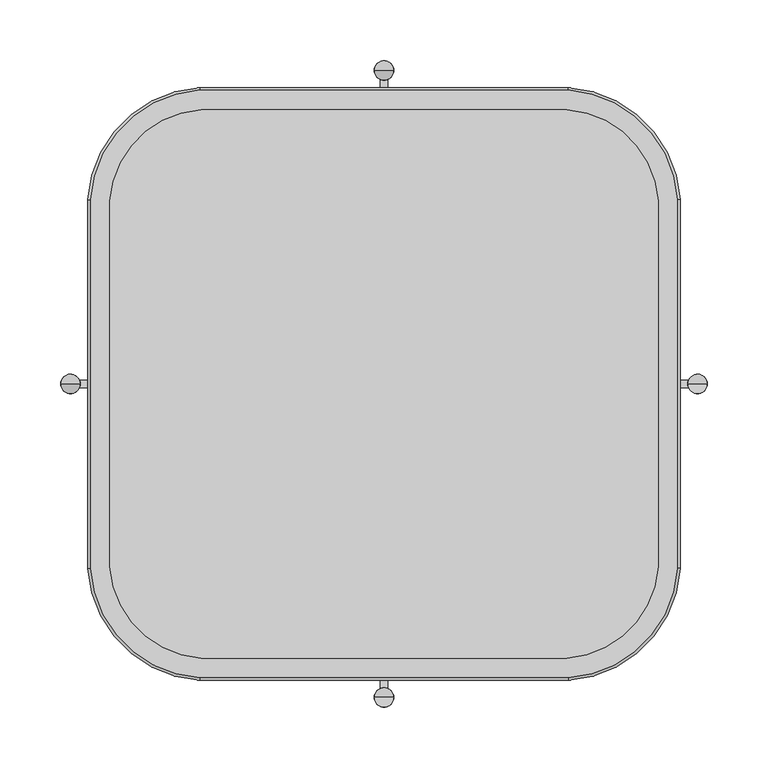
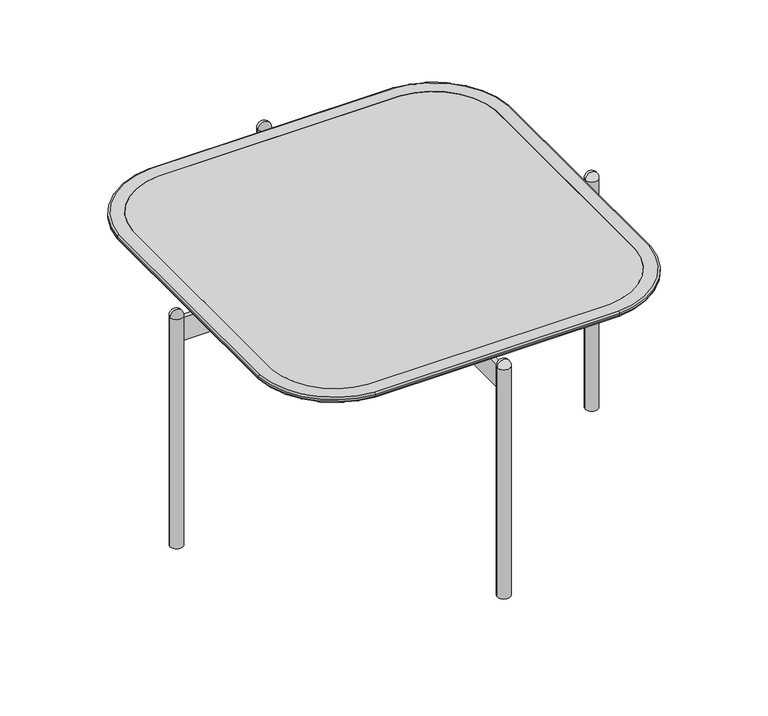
"""IFC4 building model written with IfcOpenShell, lengths in millimetres: furniture geometry, RECTANGULAR TABLE_H=31 : EI131B055050A_F."""

from ifc_helpers import new_model, si_unit, point, frame, frame_2d, origin, origin_with_axes, origin_2d, place, context, project, spatial, polyline, circle_curve, ellipse_curve, trimmed, segment, composite_curve, outline, extrude, source, transform, mapped, element, save
from ifc_brep_helpers import plane_surface, cylinder_surface, revolved_surface, advanced_brep


def furniture_b73a5fb6(model_context):
    return source(origin(), model_context, "Body", "SolidModel", [
        advanced_brep(
        [(-225.6260809, 150.5406369, 297.6939464), (-150.5406368, 225.6260809, 297.6939464), (-150.5406368, 225.6260809, 309.6939464), (-225.6260809, 150.5406369, 309.6939464), (-232.9383111, 151.0330215, 298.0050898), (-151.0330214, 232.9383112, 298.0050898), (-150.9557407, 231.7906426, 297.6939464), (-231.7906425, 150.9557408, 297.6939464), (-242.7967567, 151.6968609, 303.7097555), (-151.6968608, 242.7967567, 303.7097555), (-243.8857957, 151.7701936, 305.4486469), (-151.7701936, 243.8857958, 305.4486469), (-243.8857957, 151.7701936, 307.6939464), (-151.7701936, 243.8857958, 307.6939464), (-241.8903147, 151.6358237, 309.6939464), (-151.6358236, 241.8903147, 309.6939464), (-225.6260809, -150.5406368, 297.6939464), (-225.6260809, -150.5406368, 309.6939464), (-232.9383111, -151.0330214, 298.0050898), (-231.7906425, -150.9557407, 297.6939464), (-242.7967567, -151.6968608, 303.7097555), (-243.8857958, -151.7701936, 305.4486469), (-243.8857958, -151.7701936, 307.6939464), (-241.8903147, -151.6358236, 309.6939464), (-150.5406368, -225.6260809, 297.6939464), (-150.5406368, -225.6260809, 309.6939464), (-151.0330214, -232.9383111, 298.0050898), (-150.9557407, -231.7906425, 297.6939464), (-151.6968608, -242.7967567, 303.7097555), (-151.7701936, -243.8857958, 305.4486469), (-151.7701936, -243.8857958, 307.6939464), (-151.6358236, -241.8903147, 309.6939464), (150.5406369, -225.6260809, 297.6939464), (150.5406369, -225.6260809, 309.6939464), (151.0330214, -232.9383111, 298.0050898), (150.9557407, -231.7906425, 297.6939464), (151.6968608, -242.7967567, 303.7097555), (151.7701936, -243.8857958, 305.4486469), (151.7701936, -243.8857958, 307.6939464), (151.6358236, -241.8903147, 309.6939464), (225.6260809, -150.5406368, 297.6939464), (225.6260809, -150.5406368, 309.6939464), (232.9383112, -151.0330214, 298.0050898), (231.7906426, -150.9557407, 297.6939464), (242.7967567, -151.6968608, 303.7097555), (243.8857958, -151.7701936, 305.4486469), (243.8857958, -151.7701936, 307.6939464), (241.8903147, -151.6358236, 309.6939464), (225.6260809, 150.5406368, 297.6939464), (225.6260809, 150.5406368, 309.6939464), (232.9383112, 151.0330214, 298.0050898), (231.7906426, 150.9557407, 297.6939464), (242.7967567, 151.6968608, 303.7097555), (243.8857958, 151.7701936, 305.4486469), (243.8857958, 151.7701936, 307.6939464), (241.8903147, 151.6358236, 309.6939464), (150.5406368, 225.6260809, 297.6939464), (150.5406368, 225.6260809, 309.6939464), (151.0330214, 232.9383112, 298.0050898), (150.9557407, 231.7906426, 297.6939464), (151.6968608, 242.7967567, 303.7097555), (151.7701936, 243.8857958, 305.4486469), (151.7701936, 243.8857958, 307.6939464), (151.6358236, 241.8903147, 309.6939464)],
        [
            (0, 1, circle_curve(frame((-145.119559, 145.119559, 297.6939464), z_axis=(0.0, 0.0, -1.0), x_axis=(-0.06718498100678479, 0.997740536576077, 0.0)), 80.6888354)),
            (1, 2),
            (2, 3, circle_curve(frame((-145.119559, 145.119559, 309.6939464), z_axis=(0.0, 0.0, 1.0), x_axis=(-0.06718498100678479, 0.997740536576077, 0.0)), 80.6888354)),
            (3, 0),
            (4, 5, circle_curve(frame((-145.119559, 145.119559, 298.0050898), z_axis=(0.0, 0.0, -1.0), x_axis=(-0.06718498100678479, 0.997740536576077, 0.0)), 88.0176248)),
            (5, 6, circle_curve(frame((-150.9557407, 231.7906426, 299.9757328), z_axis=(-0.997740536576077, -0.06718498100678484, 0.0), x_axis=(0.06718498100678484, -0.997740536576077, 0.0)), 2.2817865)),
            (6, 7, circle_curve(frame((-145.119559, 145.119559, 297.6939464), z_axis=(0.0, 0.0, 1.0), x_axis=(-0.06718498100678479, 0.997740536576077, 0.0)), 86.8673572)),
            (7, 4, circle_curve(frame((-231.7906425, 150.9557408, 299.9757328), z_axis=(0.06718498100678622, 0.997740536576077, 0.0), x_axis=(0.997740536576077, -0.06718498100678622, 0.0)), 2.2817865)),
            (8, 9, circle_curve(frame((-145.119559, 145.119559, 303.7097555), z_axis=(0.0, 0.0, -1.0), x_axis=(-0.06718498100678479, 0.997740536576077, 0.0)), 97.8983956)),
            (9, 5),
            (4, 8),
            (10, 11, circle_curve(frame((-145.119559, 145.119559, 305.4486469), z_axis=(0.0, 0.0, -1.0), x_axis=(-0.06718498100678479, 0.997740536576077, 0.0)), 98.9899008)),
            (11, 9, circle_curve(frame((-151.6231258, 241.7017432, 305.6106696), z_axis=(-0.997740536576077, -0.06718498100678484, 0.0), x_axis=(0.06718498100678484, -0.997740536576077, 0.0)), 2.1949866)),
            (8, 10, circle_curve(frame((-241.7017431, 151.6231258, 305.6106696), z_axis=(0.067184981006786, 0.9977405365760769, 0.0), x_axis=(0.9977405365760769, -0.067184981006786, 0.0)), 2.1949866)),
            (12, 13, circle_curve(frame((-145.119559, 145.119559, 307.6939464), z_axis=(0.0, 0.0, -1.0), x_axis=(-0.06718498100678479, 0.997740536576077, 0.0)), 98.9899008)),
            (13, 11),
            (10, 12),
            (14, 15, circle_curve(frame((-145.119559, 145.119559, 309.6939464), z_axis=(0.0, 0.0, -1.0), x_axis=(-0.06718498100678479, 0.997740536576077, 0.0)), 96.9899008)),
            (15, 13, circle_curve(frame((-151.6358236, 241.8903147, 307.6939464), z_axis=(-0.997740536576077, -0.06718498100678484, 0.0), x_axis=(0.06718498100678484, -0.997740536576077, 0.0)), 2.0)),
            (12, 14, circle_curve(frame((-241.8903147, 151.6358237, 307.6939464), z_axis=(0.0671849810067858, 0.9977405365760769, 0.0), x_axis=(0.9977405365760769, -0.0671849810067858, 0.0)), 2.0)),
            (16, 0, circle_curve(frame((2010.0000004, 0.0, 297.6939464), z_axis=(0.0, 0.0, -1.0), x_axis=(-0.9977405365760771, 0.06718498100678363, 0.0)), 2240.6888358)),
            (3, 17, circle_curve(frame((2010.0000004, 0.0, 309.6939464), z_axis=(0.0, 0.0, 1.0), x_axis=(-0.9977405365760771, 0.06718498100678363, 0.0)), 2240.6888358)),
            (17, 16),
            (18, 4, circle_curve(frame((2010.0000004, 0.0, 298.0050898), z_axis=(0.0, 0.0, -1.0), x_axis=(-0.9977405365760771, 0.06718498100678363, 0.0)), 2248.0176252)),
            (7, 19, circle_curve(frame((2010.0000004, 0.0, 297.6939464), z_axis=(0.0, 0.0, 1.0), x_axis=(-0.9977405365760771, 0.06718498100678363, 0.0)), 2246.8673576)),
            (19, 18, circle_curve(frame((-231.7906425, -150.9557407, 299.9757328), z_axis=(-0.0671849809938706, 0.9977405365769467, 0.0), x_axis=(0.9977405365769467, 0.0671849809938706, 0.0)), 2.2817865)),
            (20, 8, circle_curve(frame((2010.0000004, 0.0, 303.7097555), z_axis=(0.0, 0.0, -1.0), x_axis=(-0.9977405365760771, 0.06718498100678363, 0.0)), 2257.898396)),
            (18, 20),
            (21, 10, circle_curve(frame((2010.0000004, 0.0, 305.4486469), z_axis=(0.0, 0.0, -1.0), x_axis=(-0.9977405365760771, 0.06718498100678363, 0.0)), 2258.9899012)),
            (20, 21, circle_curve(frame((-241.7017432, -151.6231257, 305.6106696), z_axis=(-0.06718498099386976, 0.9977405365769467, 0.0), x_axis=(0.9977405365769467, 0.06718498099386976, 0.0)), 2.1949866)),
            (22, 12, circle_curve(frame((2010.0000004, 0.0, 307.6939464), z_axis=(0.0, 0.0, -1.0), x_axis=(-0.9977405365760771, 0.06718498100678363, 0.0)), 2258.9899012)),
            (21, 22),
            (23, 14, circle_curve(frame((2010.0000004, 0.0, 309.6939464), z_axis=(0.0, 0.0, -1.0), x_axis=(-0.9977405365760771, 0.06718498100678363, 0.0)), 2256.9899012)),
            (22, 23, circle_curve(frame((-241.8903147, -151.6358236, 307.6939464), z_axis=(-0.06718498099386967, 0.9977405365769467, 0.0), x_axis=(0.9977405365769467, 0.06718498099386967, 0.0)), 2.0)),
            (24, 16, circle_curve(frame((-145.1195589, -145.1195589, 297.6939464), z_axis=(0.0, 0.0, -1.0), x_axis=(-0.9977405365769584, -0.06718498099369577, 0.0)), 80.6888354)),
            (17, 25, circle_curve(frame((-145.1195589, -145.1195589, 309.6939464), z_axis=(0.0, 0.0, 1.0), x_axis=(-0.9977405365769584, -0.06718498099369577, 0.0)), 80.6888354)),
            (25, 24),
            (26, 18, circle_curve(frame((-145.1195589, -145.1195589, 298.0050898), z_axis=(0.0, 0.0, -1.0), x_axis=(-0.9977405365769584, -0.06718498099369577, 0.0)), 88.0176248)),
            (19, 27, circle_curve(frame((-145.1195589, -145.1195589, 297.6939464), z_axis=(0.0, 0.0, 1.0), x_axis=(-0.9977405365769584, -0.06718498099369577, 0.0)), 86.8673572)),
            (27, 26, circle_curve(frame((-150.9557407, -231.7906425, 299.9757328), z_axis=(-0.9977405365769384, 0.06718498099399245, 0.0), x_axis=(0.06718498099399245, 0.9977405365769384, 0.0)), 2.2817865)),
            (28, 20, circle_curve(frame((-145.1195589, -145.1195589, 303.7097555), z_axis=(0.0, 0.0, -1.0), x_axis=(-0.9977405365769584, -0.06718498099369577, 0.0)), 97.8983956)),
            (26, 28),
            (29, 21, circle_curve(frame((-145.1195589, -145.1195589, 305.4486469), z_axis=(0.0, 0.0, -1.0), x_axis=(-0.9977405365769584, -0.06718498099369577, 0.0)), 98.9899009)),
            (28, 29, circle_curve(frame((-151.6231257, -241.7017432, 305.6106696), z_axis=(-0.9977405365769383, 0.06718498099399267, 0.0), x_axis=(0.06718498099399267, 0.9977405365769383, 0.0)), 2.1949866)),
            (30, 22, circle_curve(frame((-145.1195589, -145.1195589, 307.6939464), z_axis=(0.0, 0.0, -1.0), x_axis=(-0.9977405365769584, -0.06718498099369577, 0.0)), 98.9899009)),
            (29, 30),
            (31, 23, circle_curve(frame((-145.1195589, -145.1195589, 309.6939464), z_axis=(0.0, 0.0, -1.0), x_axis=(-0.9977405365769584, -0.06718498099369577, 0.0)), 96.9899009)),
            (30, 31, circle_curve(frame((-151.6358236, -241.8903147, 307.6939464), z_axis=(-0.9977405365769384, 0.06718498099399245, 0.0), x_axis=(0.06718498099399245, 0.9977405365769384, 0.0)), 2.0)),
            (32, 24, circle_curve(frame((0.0, 2010.0000004, 297.6939464), z_axis=(0.0, 0.0, -1.0), x_axis=(-0.06718498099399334, -0.9977405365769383, 0.0)), 2240.6888358)),
            (25, 33, circle_curve(frame((0.0, 2010.0000004, 309.6939464), z_axis=(0.0, 0.0, 1.0), x_axis=(-0.06718498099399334, -0.9977405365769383, 0.0)), 2240.6888358)),
            (33, 32),
            (34, 26, circle_curve(frame((0.0, 2010.0000004, 298.0050898), z_axis=(0.0, 0.0, -1.0), x_axis=(-0.06718498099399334, -0.9977405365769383, 0.0)), 2248.0176252)),
            (27, 35, circle_curve(frame((0.0, 2010.0000004, 297.6939464), z_axis=(0.0, 0.0, 1.0), x_axis=(-0.06718498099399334, -0.9977405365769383, 0.0)), 2246.8673576)),
            (35, 34, circle_curve(frame((150.9557407, -231.7906425, 299.9757328), z_axis=(-0.997740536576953, -0.06718498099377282, 0.0), x_axis=(-0.06718498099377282, 0.997740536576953, 0.0)), 2.2817865)),
            (36, 28, circle_curve(frame((0.0, 2010.0000004, 303.7097555), z_axis=(0.0, 0.0, -1.0), x_axis=(-0.06718498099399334, -0.9977405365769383, 0.0)), 2257.898396)),
            (34, 36),
            (37, 29, circle_curve(frame((0.0, 2010.0000004, 305.4486469), z_axis=(0.0, 0.0, -1.0), x_axis=(-0.06718498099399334, -0.9977405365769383, 0.0)), 2258.9899012)),
            (36, 37, circle_curve(frame((151.6231258, -241.7017432, 305.6106696), z_axis=(-0.997740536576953, -0.06718498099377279, 0.0), x_axis=(-0.06718498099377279, 0.997740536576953, 0.0)), 2.1949866)),
            (38, 30, circle_curve(frame((0.0, 2010.0000004, 307.6939464), z_axis=(0.0, 0.0, -1.0), x_axis=(-0.06718498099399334, -0.9977405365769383, 0.0)), 2258.9899012)),
            (37, 38),
            (39, 31, circle_curve(frame((0.0, 2010.0000004, 309.6939464), z_axis=(0.0, 0.0, -1.0), x_axis=(-0.06718498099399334, -0.9977405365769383, 0.0)), 2256.9899012)),
            (38, 39, circle_curve(frame((151.6358236, -241.8903147, 307.6939464), z_axis=(-0.997740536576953, -0.06718498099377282, 0.0), x_axis=(-0.06718498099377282, 0.997740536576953, 0.0)), 2.0)),
            (40, 32, circle_curve(frame((145.119559, -145.1195589, 297.6939464), z_axis=(0.0, 0.0, -1.0), x_axis=(0.06718498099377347, -0.997740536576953, 0.0)), 80.6888354)),
            (33, 41, circle_curve(frame((145.119559, -145.1195589, 309.6939464), z_axis=(0.0, 0.0, 1.0), x_axis=(0.06718498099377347, -0.997740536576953, 0.0)), 80.6888354)),
            (41, 40),
            (42, 34, circle_curve(frame((145.119559, -145.1195589, 298.0050898), z_axis=(0.0, 0.0, -1.0), x_axis=(0.06718498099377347, -0.997740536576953, 0.0)), 88.0176248)),
            (35, 43, circle_curve(frame((145.119559, -145.1195589, 297.6939464), z_axis=(0.0, 0.0, 1.0), x_axis=(0.06718498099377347, -0.997740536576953, 0.0)), 86.8673572)),
            (43, 42, circle_curve(frame((231.7906426, -150.9557407, 299.9757328), z_axis=(-0.06718498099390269, -0.9977405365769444, 0.0), x_axis=(-0.9977405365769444, 0.06718498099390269, 0.0)), 2.2817865)),
            (44, 36, circle_curve(frame((145.119559, -145.1195589, 303.7097555), z_axis=(0.0, 0.0, -1.0), x_axis=(0.06718498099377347, -0.997740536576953, 0.0)), 97.8983956)),
            (42, 44),
            (45, 37, circle_curve(frame((145.119559, -145.1195589, 305.4486469), z_axis=(0.0, 0.0, -1.0), x_axis=(0.06718498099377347, -0.997740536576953, 0.0)), 98.9899009)),
            (44, 45, circle_curve(frame((241.7017432, -151.6231257, 305.6106696), z_axis=(-0.06718498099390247, -0.9977405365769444, 0.0), x_axis=(-0.9977405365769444, 0.06718498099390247, 0.0)), 2.1949866)),
            (46, 38, circle_curve(frame((145.119559, -145.1195589, 307.6939464), z_axis=(0.0, 0.0, -1.0), x_axis=(0.06718498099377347, -0.997740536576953, 0.0)), 98.9899009)),
            (45, 46),
            (47, 39, circle_curve(frame((145.119559, -145.1195589, 309.6939464), z_axis=(0.0, 0.0, -1.0), x_axis=(0.06718498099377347, -0.997740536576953, 0.0)), 96.9899009)),
            (46, 47, circle_curve(frame((241.8903147, -151.6358236, 307.6939464), z_axis=(-0.06718498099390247, -0.9977405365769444, 0.0), x_axis=(-0.9977405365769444, 0.06718498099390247, 0.0)), 2.0)),
            (48, 40, circle_curve(frame((-2010.0000004, 0.0, 297.6939464), z_axis=(0.0, 0.0, -1.0), x_axis=(0.9977405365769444, -0.06718498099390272, 0.0)), 2240.6888358)),
            (41, 49, circle_curve(frame((-2010.0000004, 0.0, 309.6939464), z_axis=(0.0, 0.0, 1.0), x_axis=(0.9977405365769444, -0.06718498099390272, 0.0)), 2240.6888358)),
            (49, 48),
            (50, 42, circle_curve(frame((-2010.0000004, 0.0, 298.0050898), z_axis=(0.0, 0.0, -1.0), x_axis=(0.9977405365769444, -0.06718498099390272, 0.0)), 2248.0176252)),
            (43, 51, circle_curve(frame((-2010.0000004, 0.0, 297.6939464), z_axis=(0.0, 0.0, 1.0), x_axis=(0.9977405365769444, -0.06718498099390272, 0.0)), 2246.8673576)),
            (51, 50, circle_curve(frame((231.7906426, 150.9557407, 299.9757328), z_axis=(0.06718498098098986, -0.9977405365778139, 0.0), x_axis=(-0.9977405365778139, -0.06718498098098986, 0.0)), 2.2817865)),
            (52, 44, circle_curve(frame((-2010.0000004, 0.0, 303.7097555), z_axis=(0.0, 0.0, -1.0), x_axis=(0.9977405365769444, -0.06718498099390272, 0.0)), 2257.898396)),
            (50, 52),
            (53, 45, circle_curve(frame((-2010.0000004, 0.0, 305.4486469), z_axis=(0.0, 0.0, -1.0), x_axis=(0.9977405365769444, -0.06718498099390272, 0.0)), 2258.9899012)),
            (52, 53, circle_curve(frame((241.7017432, 151.6231258, 305.6106696), z_axis=(0.06718498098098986, -0.9977405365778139, 0.0), x_axis=(-0.9977405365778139, -0.06718498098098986, 0.0)), 2.1949866)),
            (54, 46, circle_curve(frame((-2010.0000004, 0.0, 307.6939464), z_axis=(0.0, 0.0, -1.0), x_axis=(0.9977405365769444, -0.06718498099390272, 0.0)), 2258.9899012)),
            (53, 54),
            (55, 47, circle_curve(frame((-2010.0000004, 0.0, 309.6939464), z_axis=(0.0, 0.0, -1.0), x_axis=(0.9977405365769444, -0.06718498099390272, 0.0)), 2256.9899012)),
            (54, 55, circle_curve(frame((241.8903147, 151.6358236, 307.6939464), z_axis=(0.06718498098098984, -0.9977405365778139, 0.0), x_axis=(-0.9977405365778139, -0.06718498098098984, 0.0)), 2.0)),
            (56, 48, circle_curve(frame((145.119559, 145.119559, 297.6939464), z_axis=(0.0, 0.0, -1.0), x_axis=(0.9977405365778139, 0.06718498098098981, 0.0)), 80.6888354)),
            (49, 57, circle_curve(frame((145.119559, 145.119559, 309.6939464), z_axis=(0.0, 0.0, 1.0), x_axis=(0.9977405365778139, 0.06718498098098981, 0.0)), 80.6888354)),
            (57, 56),
            (58, 50, circle_curve(frame((145.119559, 145.119559, 298.0050898), z_axis=(0.0, 0.0, -1.0), x_axis=(0.9977405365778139, 0.06718498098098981, 0.0)), 88.0176248)),
            (51, 59, circle_curve(frame((145.119559, 145.119559, 297.6939464), z_axis=(0.0, 0.0, 1.0), x_axis=(0.9977405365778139, 0.06718498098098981, 0.0)), 86.8673573)),
            (59, 58, circle_curve(frame((150.9557407, 231.7906426, 299.9757328), z_axis=(0.997740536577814, -0.06718498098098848, 0.0), x_axis=(-0.06718498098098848, -0.997740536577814, 0.0)), 2.2817865)),
            (60, 52, circle_curve(frame((145.119559, 145.119559, 303.7097555), z_axis=(0.0, 0.0, -1.0), x_axis=(0.9977405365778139, 0.06718498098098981, 0.0)), 97.8983956)),
            (58, 60),
            (61, 53, circle_curve(frame((145.119559, 145.119559, 305.4486469), z_axis=(0.0, 0.0, -1.0), x_axis=(0.9977405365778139, 0.06718498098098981, 0.0)), 98.9899009)),
            (60, 61, circle_curve(frame((151.6231258, 241.7017432, 305.6106696), z_axis=(0.997740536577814, -0.06718498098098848, 0.0), x_axis=(-0.06718498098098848, -0.997740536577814, 0.0)), 2.1949866)),
            (62, 54, circle_curve(frame((145.119559, 145.119559, 307.6939464), z_axis=(0.0, 0.0, -1.0), x_axis=(0.9977405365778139, 0.06718498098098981, 0.0)), 98.9899009)),
            (61, 62),
            (63, 55, circle_curve(frame((145.119559, 145.119559, 309.6939464), z_axis=(0.0, 0.0, -1.0), x_axis=(0.9977405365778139, 0.06718498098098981, 0.0)), 96.9899009)),
            (62, 63, circle_curve(frame((151.6358236, 241.8903147, 307.6939464), z_axis=(0.997740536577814, -0.0671849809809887, 0.0), x_axis=(-0.0671849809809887, -0.997740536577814, 0.0)), 2.0)),
            (1, 56, circle_curve(frame((0.0, -2010.0000004, 297.6939464), z_axis=(0.0, 0.0, -1.0), x_axis=(0.06718498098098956, 0.9977405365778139, 0.0)), 2240.6888358)),
            (57, 2, circle_curve(frame((0.0, -2010.0000004, 309.6939464), z_axis=(0.0, 0.0, 1.0), x_axis=(0.06718498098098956, 0.9977405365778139, 0.0)), 2240.6888358)),
            (6, 59, circle_curve(frame((0.0, -2010.0000004, 297.6939464), z_axis=(0.0, 0.0, -1.0), x_axis=(0.06718498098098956, 0.9977405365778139, 0.0)), 2246.8673576)),
            (5, 58, circle_curve(frame((0.0, -2010.0000004, 298.0050898), z_axis=(0.0, 0.0, -1.0), x_axis=(0.06718498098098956, 0.9977405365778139, 0.0)), 2248.0176252)),
            (9, 60, circle_curve(frame((0.0, -2010.0000004, 303.7097555), z_axis=(0.0, 0.0, -1.0), x_axis=(0.06718498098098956, 0.9977405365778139, 0.0)), 2257.898396)),
            (11, 61, circle_curve(frame((0.0, -2010.0000004, 305.4486469), z_axis=(0.0, 0.0, -1.0), x_axis=(0.06718498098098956, 0.9977405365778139, 0.0)), 2258.9899012)),
            (13, 62, circle_curve(frame((0.0, -2010.0000004, 307.6939464), z_axis=(0.0, 0.0, -1.0), x_axis=(0.06718498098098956, 0.9977405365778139, 0.0)), 2258.9899012)),
            (15, 63, circle_curve(frame((0.0, -2010.0000004, 309.6939464), z_axis=(0.0, 0.0, -1.0), x_axis=(0.06718498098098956, 0.9977405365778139, 0.0)), 2256.9899012)),
        ],
        [
            revolved_surface(polyline([(-150.54063687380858, 225.62608092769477, 309.6939464), (-150.54063687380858, 225.62608092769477, 297.6939464)]), (-145.119559, 145.119559, 297.6939464), (0.0, 0.0, 1.0)),
            revolved_surface(trimmed(ellipse_curve(frame((-150.9557407, 231.7906426, 299.9757328), z_axis=(0.997740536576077, 0.06718498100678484, 0.0), x_axis=(0.06718498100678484, -0.997740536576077, 0.0)), 2.2817865, 2.2817865), [point((-150.9557407, 231.7906426, 297.6939464))], [point((-151.0330214, 232.9383112, 298.0050898))], True, "CARTESIAN"), (-145.119559, 145.119559, 297.6939464), (0.0, 0.0, 1.0)),
            revolved_surface(polyline([(-151.0330214, 232.9383112, 298.0050898), (-151.6968608, 242.7967567, 303.7097555)]), (-145.119559, 145.119559, 297.6939464), (0.0, 0.0, 1.0)),
            revolved_surface(trimmed(ellipse_curve(frame((-151.6231258, 241.7017432, 305.6106696), z_axis=(0.997740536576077, 0.06718498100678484, 0.0), x_axis=(0.06718498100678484, -0.997740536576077, 0.0)), 2.1949866, 2.1949866), [point((-151.6968608, 242.7967567, 303.7097555))], [point((-151.7701936, 243.8857958, 305.4486469))], True, "CARTESIAN"), (-145.119559, 145.119559, 297.6939464), (0.0, 0.0, 1.0)),
            cylinder_surface(frame((-145.119559, 145.119559, 297.6939464), z_axis=(0.0, 0.0, 1.0), x_axis=(-0.06718498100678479, 0.997740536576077, 0.0)), 98.9899008),
            revolved_surface(trimmed(ellipse_curve(frame((-151.6358236, 241.8903147, 307.6939464), z_axis=(0.997740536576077, 0.06718498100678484, 0.0), x_axis=(0.06718498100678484, -0.997740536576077, 0.0)), 2.0, 2.0), [point((-151.7701936, 243.8857958, 307.6939464))], [point((-151.6358236, 241.8903147, 309.6939464))], True, "CARTESIAN"), (-145.119559, 145.119559, 297.6939464), (0.0, 0.0, 1.0)),
            revolved_surface(polyline([(-225.6260809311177, 150.54063687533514, 309.6939464), (-225.6260809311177, 150.54063687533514, 297.6939464)]), (2010.0000004, 0.0, 297.6939464), (0.0, 0.0, 1.0)),
            revolved_surface(trimmed(ellipse_curve(frame((-231.7906425, 150.9557408, 299.9757328), z_axis=(0.06718498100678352, 0.9977405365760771, 0.0), x_axis=(0.9977405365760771, -0.06718498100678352, 0.0)), 2.2817865, 2.2817865), [point((-231.7906425, 150.9557408, 297.6939464))], [point((-232.9383111, 151.0330215, 298.0050898))], True, "CARTESIAN"), (2010.0000004, 0.0, 297.6939464), (0.0, 0.0, 1.0)),
            revolved_surface(polyline([(-232.9383111, 151.0330215, 298.0050898), (-242.7967567, 151.6968609, 303.7097555)]), (2010.0000004, 0.0, 297.6939464), (0.0, 0.0, 1.0)),
            revolved_surface(trimmed(ellipse_curve(frame((-241.7017431, 151.6231258, 305.6106696), z_axis=(0.06718498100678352, 0.9977405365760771, 0.0), x_axis=(0.9977405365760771, -0.06718498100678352, 0.0)), 2.1949866, 2.1949866), [point((-242.7967567, 151.6968609, 303.7097555))], [point((-243.8857957, 151.7701936, 305.4486469))], True, "CARTESIAN"), (2010.0000004, 0.0, 297.6939464), (0.0, 0.0, 1.0)),
            cylinder_surface(frame((2010.0000004, 0.0, 297.6939464), z_axis=(0.0, 0.0, 1.0), x_axis=(-0.9977405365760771, 0.06718498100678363, 0.0)), 2258.9899012),
            revolved_surface(trimmed(ellipse_curve(frame((-241.8903147, 151.6358237, 307.6939464), z_axis=(0.06718498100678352, 0.9977405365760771, 0.0), x_axis=(0.9977405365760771, -0.06718498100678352, 0.0)), 2.0, 2.0), [point((-243.8857957, 151.7701936, 307.6939464))], [point((-241.8903147, 151.6358237, 309.6939464))], True, "CARTESIAN"), (2010.0000004, 0.0, 297.6939464), (0.0, 0.0, 1.0)),
            revolved_surface(polyline([(-225.62608082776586, -150.54063677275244, 309.6939464), (-225.62608082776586, -150.54063677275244, 297.6939464)]), (-145.1195589, -145.1195589, 297.6939464), (0.0, 0.0, 1.0)),
            revolved_surface(trimmed(ellipse_curve(frame((-231.7906425, -150.9557407, 299.9757328), z_axis=(-0.0671849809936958, 0.9977405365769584, 0.0), x_axis=(0.9977405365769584, 0.0671849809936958, 0.0)), 2.2817865, 2.2817865), [point((-231.7906425, -150.9557407, 297.6939464))], [point((-232.9383111, -151.0330214, 298.0050898))], True, "CARTESIAN"), (-145.1195589, -145.1195589, 297.6939464), (0.0, 0.0, 1.0)),
            revolved_surface(polyline([(-232.9383111, -151.0330214, 298.0050898), (-242.7967567, -151.6968608, 303.7097555)]), (-145.1195589, -145.1195589, 297.6939464), (0.0, 0.0, 1.0)),
            revolved_surface(trimmed(ellipse_curve(frame((-241.7017432, -151.6231257, 305.6106696), z_axis=(-0.0671849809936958, 0.9977405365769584, 0.0), x_axis=(0.9977405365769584, 0.0671849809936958, 0.0)), 2.1949866, 2.1949866), [point((-242.7967567, -151.6968608, 303.7097555))], [point((-243.8857958, -151.7701936, 305.4486469))], True, "CARTESIAN"), (-145.1195589, -145.1195589, 297.6939464), (0.0, 0.0, 1.0)),
            cylinder_surface(frame((-145.1195589, -145.1195589, 297.6939464), z_axis=(0.0, 0.0, 1.0), x_axis=(-0.9977405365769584, -0.06718498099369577, 0.0)), 98.9899009),
            revolved_surface(trimmed(ellipse_curve(frame((-241.8903147, -151.6358236, 307.6939464), z_axis=(-0.0671849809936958, 0.9977405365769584, 0.0), x_axis=(0.9977405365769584, 0.0671849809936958, 0.0)), 2.0, 2.0), [point((-243.8857958, -151.7701936, 307.6939464))], [point((-241.8903147, -151.6358236, 309.6939464))], True, "CARTESIAN"), (-145.1195589, -145.1195589, 297.6939464), (0.0, 0.0, 1.0)),
            revolved_surface(polyline([(-150.54063684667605, -225.6260809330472, 309.6939464), (-150.54063684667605, -225.6260809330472, 297.6939464)]), (0.0, 2010.0000004, 297.6939464), (0.0, 0.0, 1.0)),
            revolved_surface(trimmed(ellipse_curve(frame((-150.9557407, -231.7906425, 299.9757328), z_axis=(-0.9977405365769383, 0.06718498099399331, 0.0), x_axis=(0.06718498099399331, 0.9977405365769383, 0.0)), 2.2817865, 2.2817865), [point((-150.9557407, -231.7906425, 297.6939464))], [point((-151.0330214, -232.9383111, 298.0050898))], True, "CARTESIAN"), (0.0, 2010.0000004, 297.6939464), (0.0, 0.0, 1.0)),
            revolved_surface(polyline([(-151.0330214, -232.9383111, 298.0050898), (-151.6968608, -242.7967567, 303.7097555)]), (0.0, 2010.0000004, 297.6939464), (0.0, 0.0, 1.0)),
            revolved_surface(trimmed(ellipse_curve(frame((-151.6231257, -241.7017432, 305.6106696), z_axis=(-0.9977405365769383, 0.06718498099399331, 0.0), x_axis=(0.06718498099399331, 0.9977405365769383, 0.0)), 2.1949866, 2.1949866), [point((-151.6968608, -242.7967567, 303.7097555))], [point((-151.7701936, -243.8857958, 305.4486469))], True, "CARTESIAN"), (0.0, 2010.0000004, 297.6939464), (0.0, 0.0, 1.0)),
            cylinder_surface(frame((0.0, 2010.0000004, 297.6939464), z_axis=(0.0, 0.0, 1.0), x_axis=(-0.06718498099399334, -0.9977405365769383, 0.0)), 2258.9899012),
            revolved_surface(trimmed(ellipse_curve(frame((-151.6358236, -241.8903147, 307.6939464), z_axis=(-0.9977405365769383, 0.06718498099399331, 0.0), x_axis=(0.06718498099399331, 0.9977405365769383, 0.0)), 2.0, 2.0), [point((-151.7701936, -243.8857958, 307.6939464))], [point((-151.6358236, -241.8903147, 309.6939464))], True, "CARTESIAN"), (0.0, 2010.0000004, 297.6939464), (0.0, 0.0, 1.0)),
            revolved_surface(polyline([(150.54063687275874, -225.62608082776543, 309.6939464), (150.54063687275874, -225.62608082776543, 297.6939464)]), (145.119559, -145.1195589, 297.6939464), (0.0, 0.0, 1.0)),
            revolved_surface(trimmed(ellipse_curve(frame((150.9557407, -231.7906425, 299.9757328), z_axis=(-0.997740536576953, -0.06718498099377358, 0.0), x_axis=(-0.06718498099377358, 0.997740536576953, 0.0)), 2.2817865, 2.2817865), [point((150.9557407, -231.7906425, 297.6939464))], [point((151.0330214, -232.9383111, 298.0050898))], True, "CARTESIAN"), (145.119559, -145.1195589, 297.6939464), (0.0, 0.0, 1.0)),
            revolved_surface(polyline([(151.0330214, -232.9383111, 298.0050898), (151.6968608, -242.7967567, 303.7097555)]), (145.119559, -145.1195589, 297.6939464), (0.0, 0.0, 1.0)),
            revolved_surface(trimmed(ellipse_curve(frame((151.6231258, -241.7017432, 305.6106696), z_axis=(-0.997740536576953, -0.06718498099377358, 0.0), x_axis=(-0.06718498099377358, 0.997740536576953, 0.0)), 2.1949866, 2.1949866), [point((151.6968608, -242.7967567, 303.7097555))], [point((151.7701936, -243.8857958, 305.4486469))], True, "CARTESIAN"), (145.119559, -145.1195589, 297.6939464), (0.0, 0.0, 1.0)),
            cylinder_surface(frame((145.119559, -145.1195589, 297.6939464), z_axis=(0.0, 0.0, 1.0), x_axis=(0.06718498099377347, -0.997740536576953, 0.0)), 98.9899009),
            revolved_surface(trimmed(ellipse_curve(frame((151.6358236, -241.8903147, 307.6939464), z_axis=(-0.997740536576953, -0.06718498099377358, 0.0), x_axis=(-0.06718498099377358, 0.997740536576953, 0.0)), 2.0, 2.0), [point((151.7701936, -243.8857958, 307.6939464))], [point((151.6358236, -241.8903147, 309.6939464))], True, "CARTESIAN"), (145.119559, -145.1195589, 297.6939464), (0.0, 0.0, 1.0)),
            revolved_surface(polyline([(225.62608093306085, -150.540636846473, 309.6939464), (225.62608093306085, -150.540636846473, 297.6939464)]), (-2010.0000004, 0.0, 297.6939464), (0.0, 0.0, 1.0)),
            revolved_surface(trimmed(ellipse_curve(frame((231.7906426, -150.9557407, 299.9757328), z_axis=(-0.06718498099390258, -0.9977405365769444, 0.0), x_axis=(-0.9977405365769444, 0.06718498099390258, 0.0)), 2.2817865, 2.2817865), [point((231.7906426, -150.9557407, 297.6939464))], [point((232.9383112, -151.0330214, 298.0050898))], True, "CARTESIAN"), (-2010.0000004, 0.0, 297.6939464), (0.0, 0.0, 1.0)),
            revolved_surface(polyline([(232.9383112, -151.0330214, 298.0050898), (242.7967567, -151.6968608, 303.7097555)]), (-2010.0000004, 0.0, 297.6939464), (0.0, 0.0, 1.0)),
            revolved_surface(trimmed(ellipse_curve(frame((241.7017432, -151.6231257, 305.6106696), z_axis=(-0.06718498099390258, -0.9977405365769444, 0.0), x_axis=(-0.9977405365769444, 0.06718498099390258, 0.0)), 2.1949866, 2.1949866), [point((242.7967567, -151.6968608, 303.7097555))], [point((243.8857958, -151.7701936, 305.4486469))], True, "CARTESIAN"), (-2010.0000004, 0.0, 297.6939464), (0.0, 0.0, 1.0)),
            cylinder_surface(frame((-2010.0000004, 0.0, 297.6939464), z_axis=(0.0, 0.0, 1.0), x_axis=(0.9977405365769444, -0.06718498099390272, 0.0)), 2258.9899012),
            revolved_surface(trimmed(ellipse_curve(frame((241.8903147, -151.6358236, 307.6939464), z_axis=(-0.06718498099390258, -0.9977405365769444, 0.0), x_axis=(-0.9977405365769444, 0.06718498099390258, 0.0)), 2.0, 2.0), [point((243.8857958, -151.7701936, 307.6939464))], [point((241.8903147, -151.6358236, 309.6939464))], True, "CARTESIAN"), (-2010.0000004, 0.0, 297.6939464), (0.0, 0.0, 1.0)),
            revolved_surface(polyline([(225.62608092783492, 150.54063687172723, 309.6939464), (225.62608092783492, 150.54063687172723, 297.6939464)]), (145.119559, 145.119559, 297.6939464), (0.0, 0.0, 1.0)),
            revolved_surface(trimmed(ellipse_curve(frame((231.7906426, 150.9557407, 299.9757328), z_axis=(0.06718498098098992, -0.9977405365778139, 0.0), x_axis=(-0.9977405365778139, -0.06718498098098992, 0.0)), 2.2817865, 2.2817865), [point((231.7906426, 150.9557407, 297.6939464))], [point((232.9383112, 151.0330214, 298.0050898))], True, "CARTESIAN"), (145.119559, 145.119559, 297.6939464), (0.0, 0.0, 1.0)),
            revolved_surface(polyline([(232.9383112, 151.0330214, 298.0050898), (242.7967567, 151.6968608, 303.7097555)]), (145.119559, 145.119559, 297.6939464), (0.0, 0.0, 1.0)),
            revolved_surface(trimmed(ellipse_curve(frame((241.7017432, 151.6231258, 305.6106696), z_axis=(0.06718498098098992, -0.9977405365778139, 0.0), x_axis=(-0.9977405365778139, -0.06718498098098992, 0.0)), 2.1949866, 2.1949866), [point((242.7967567, 151.6968608, 303.7097555))], [point((243.8857958, 151.7701936, 305.4486469))], True, "CARTESIAN"), (145.119559, 145.119559, 297.6939464), (0.0, 0.0, 1.0)),
            cylinder_surface(frame((145.119559, 145.119559, 297.6939464), z_axis=(0.0, 0.0, 1.0), x_axis=(0.9977405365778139, 0.06718498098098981, 0.0)), 98.9899009),
            revolved_surface(trimmed(ellipse_curve(frame((241.8903147, 151.6358236, 307.6939464), z_axis=(0.06718498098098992, -0.9977405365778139, 0.0), x_axis=(-0.9977405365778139, -0.06718498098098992, 0.0)), 2.0, 2.0), [point((243.8857958, 151.7701936, 307.6939464))], [point((241.8903147, 151.6358236, 309.6939464))], True, "CARTESIAN"), (145.119559, 145.119559, 297.6939464), (0.0, 0.0, 1.0)),
            revolved_surface(polyline([(150.54063681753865, 225.62608093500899, 309.6939464), (150.54063681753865, 225.62608093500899, 297.6939464)]), (0.0, -2010.0000004, 297.6939464), (0.0, 0.0, 1.0)),
            plane_surface(frame((0.0, -2010.0000004, 297.6939464), z_axis=(0.0, 0.0, -1.0), x_axis=(0.06718498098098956, 0.9977405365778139, 0.0))),
            revolved_surface(trimmed(ellipse_curve(frame((150.9557407, 231.7906426, 299.9757328), z_axis=(0.9977405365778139, -0.06718498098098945, 0.0), x_axis=(-0.06718498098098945, -0.9977405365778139, 0.0)), 2.2817865, 2.2817865), [point((150.9557407, 231.7906426, 297.6939464))], [point((151.0330214, 232.9383112, 298.0050898))], True, "CARTESIAN"), (0.0, -2010.0000004, 297.6939464), (0.0, 0.0, 1.0)),
            revolved_surface(polyline([(151.0330214, 232.9383112, 298.0050898), (151.6968608, 242.7967567, 303.7097555)]), (0.0, -2010.0000004, 297.6939464), (0.0, 0.0, 1.0)),
            revolved_surface(trimmed(ellipse_curve(frame((151.6231258, 241.7017432, 305.6106696), z_axis=(0.9977405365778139, -0.06718498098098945, 0.0), x_axis=(-0.06718498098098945, -0.9977405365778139, 0.0)), 2.1949866, 2.1949866), [point((151.6968608, 242.7967567, 303.7097555))], [point((151.7701936, 243.8857958, 305.4486469))], True, "CARTESIAN"), (0.0, -2010.0000004, 297.6939464), (0.0, 0.0, 1.0)),
            cylinder_surface(frame((0.0, -2010.0000004, 297.6939464), z_axis=(0.0, 0.0, 1.0), x_axis=(0.06718498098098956, 0.9977405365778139, 0.0)), 2258.9899012),
            revolved_surface(trimmed(ellipse_curve(frame((151.6358236, 241.8903147, 307.6939464), z_axis=(0.9977405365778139, -0.06718498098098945, 0.0), x_axis=(-0.06718498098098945, -0.9977405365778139, 0.0)), 2.0, 2.0), [point((151.7701936, 243.8857958, 307.6939464))], [point((151.6358236, 241.8903147, 309.6939464))], True, "CARTESIAN"), (0.0, -2010.0000004, 297.6939464), (0.0, 0.0, 1.0)),
            plane_surface(frame((0.0, -2010.0000004, 309.6939464), z_axis=(0.0, 0.0, 1.0), x_axis=(0.06718498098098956, 0.9977405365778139, 0.0))),
        ],
        [
            (0, [[1, 2, 3, 4]]),
            (1, [[5, 6, 7, 8]]),
            (2, [[9, 10, -5, 11]]),
            (3, [[12, 13, -9, 14]]),
            (4, [[15, 16, -12, 17]]),
            (5, [[18, 19, -15, 20]]),
            (6, [[21, -4, 22, 23]]),
            (7, [[24, -8, 25, 26]]),
            (8, [[27, -11, -24, 28]]),
            (9, [[29, -14, -27, 30]]),
            (10, [[31, -17, -29, 32]]),
            (11, [[33, -20, -31, 34]]),
            (12, [[35, -23, 36, 37]]),
            (13, [[38, -26, 39, 40]]),
            (14, [[41, -28, -38, 42]]),
            (15, [[43, -30, -41, 44]]),
            (16, [[45, -32, -43, 46]]),
            (17, [[47, -34, -45, 48]]),
            (18, [[49, -37, 50, 51]]),
            (19, [[52, -40, 53, 54]]),
            (20, [[55, -42, -52, 56]]),
            (21, [[57, -44, -55, 58]]),
            (22, [[59, -46, -57, 60]]),
            (23, [[61, -48, -59, 62]]),
            (24, [[63, -51, 64, 65]]),
            (25, [[66, -54, 67, 68]]),
            (26, [[69, -56, -66, 70]]),
            (27, [[71, -58, -69, 72]]),
            (28, [[73, -60, -71, 74]]),
            (29, [[75, -62, -73, 76]]),
            (30, [[77, -65, 78, 79]]),
            (31, [[80, -68, 81, 82]]),
            (32, [[83, -70, -80, 84]]),
            (33, [[85, -72, -83, 86]]),
            (34, [[87, -74, -85, 88]]),
            (35, [[89, -76, -87, 90]]),
            (36, [[91, -79, 92, 93]]),
            (37, [[94, -82, 95, 96]]),
            (38, [[97, -84, -94, 98]]),
            (39, [[99, -86, -97, 100]]),
            (40, [[101, -88, -99, 102]]),
            (41, [[103, -90, -101, 104]]),
            (42, [[105, -93, 106, -2]]),
            (43, [[107, -95, -81, -67, -53, -39, -25, -7], [-77, -91, -105, -1, -21, -35, -49, -63]]),
            (44, [[108, -96, -107, -6]]),
            (45, [[109, -98, -108, -10]]),
            (46, [[110, -100, -109, -13]]),
            (47, [[111, -102, -110, -16]]),
            (48, [[112, -104, -111, -19]]),
            (49, [[-89, -103, -112, -18, -33, -47, -61, -75], [-106, -92, -78, -64, -50, -36, -22, -3]]),
        ],
    ),
        extrude(outline(composite_curve([segment(trimmed(circle_curve(frame_2d((-145.119559, 145.119559)), 80.69), [point((-225.6272429, 150.5407151))], [point((-150.5407151, 225.6272429))], False, "CARTESIAN"), True, "CONTINUOUS"), segment(trimmed(circle_curve(frame_2d((0.0, -2010.0000004)), 2240.6900004), [point((-150.5407151, 225.6272429))], [point((150.5407151, 225.6272429))], False, "CARTESIAN"), True, "CONTINUOUS"), segment(trimmed(circle_curve(frame_2d((145.119559, 145.119559)), 80.6900001), [point((150.5407151, 225.6272429))], [point((225.6272429, 150.5407151))], False, "CARTESIAN"), True, "CONTINUOUS"), segment(trimmed(circle_curve(frame_2d((-2010.0000004, 0.0)), 2240.6900004), [point((225.6272429, 150.5407151))], [point((225.6272429, -150.5407151))], False, "CARTESIAN"), True, "CONTINUOUS"), segment(trimmed(circle_curve(frame_2d((145.119559, -145.1195589)), 80.69), [point((225.6272429, -150.5407151))], [point((150.5407151, -225.6272429))], False, "CARTESIAN"), True, "CONTINUOUS"), segment(trimmed(circle_curve(frame_2d((0.0, 2010.0000004)), 2240.6900004), [point((150.5407151, -225.6272429))], [point((-150.5407151, -225.6272429))], False, "CARTESIAN"), True, "CONTINUOUS"), segment(trimmed(circle_curve(frame_2d((-145.1195589, -145.1195589)), 80.69), [point((-150.5407151, -225.6272429))], [point((-225.6272429, -150.5407151))], False, "CARTESIAN"), True, "CONTINUOUS"), segment(trimmed(circle_curve(frame_2d((2010.0000004, 0.0)), 2240.6900004), [point((-225.6272429, -150.5407151))], [point((-225.6272429, 150.5407151))], False, "CARTESIAN"), True, "CONTINUOUS")], self_intersect=False)), frame((0.0, 0.0, 297.6939464), z_axis=(0.0, 0.0, 1.0), x_axis=(1.0, 0.0, 0.0)), (0.0, 0.0, 1.0), 12.0),
        advanced_brep(
        [(-8.0, -257.95, 301.1666667), (8.0, -257.95, 301.1666667), (0.0, -257.95, 309.1666667), (0.0, -257.95, 301.1666667)],
        [
            (0, 1, circle_curve(frame((0.0, -257.95, 301.1666667), z_axis=(0.0, 0.0, 1.0), x_axis=(1.0, 0.0, 0.0)), 8.0)),
            (1, 2, circle_curve(frame((0.0, -257.95, 301.1666667), z_axis=(0.0, -1.0, 0.0), x_axis=(1.0, 0.0, 0.0)), 8.0)),
            (2, 0, circle_curve(frame((0.0, -257.95, 301.1666667), z_axis=(0.0, -1.0, 0.0), x_axis=(-1.0, 0.0, 0.0)), 8.0)),
            (1, 0, circle_curve(frame((0.0, -257.95, 301.1666667), z_axis=(0.0, 0.0, 1.0), x_axis=(1.0, 0.0, 0.0)), 8.0)),
            (3, 1),
            (0, 3),
        ],
        [
            revolved_surface(trimmed(ellipse_curve(frame((0.0, -257.95, 301.1666667), z_axis=(0.0, 1.0, 0.0), x_axis=(1.0, 0.0, 0.0)), 8.0, 8.0), [point((0.0, -257.95, 309.1666667))], [point((8.0, -257.95, 301.1666667))], True, "CARTESIAN"), (0.0, -257.95, 2498.4), (0.0, 0.0, -1.0)),
            plane_surface(frame((0.0, -257.95, 301.1666667), z_axis=(0.0, 0.0, -1.0), x_axis=(1.0, 0.0, 0.0))),
        ],
        [
            (0, [[1, 2, 3]]),
            (0, [[4, -3, -2]]),
            (1, [[5, -1, 6]]),
            (1, [[-6, -4, -5]]),
        ],
    ),
        advanced_brep(
        [(265.95, 0.0, 301.1666667), (249.95, 0.0, 301.1666667), (257.95, 0.0, 309.1666667), (257.95, 0.0, 301.1666667)],
        [
            (0, 1, circle_curve(frame((257.95, 0.0, 301.1666667), z_axis=(0.0, 0.0, 1.0), x_axis=(-1.0, 0.0, 0.0)), 8.0)),
            (1, 2, circle_curve(frame((257.95, 0.0, 301.1666667), z_axis=(0.0, 1.0, 0.0), x_axis=(-1.0, 0.0, 0.0)), 8.0)),
            (2, 0, circle_curve(frame((257.95, 0.0, 301.1666667), z_axis=(0.0, 1.0, 0.0), x_axis=(1.0, 0.0, 0.0)), 8.0)),
            (1, 0, circle_curve(frame((257.95, 0.0, 301.1666667), z_axis=(0.0, 0.0, 1.0), x_axis=(-1.0, 0.0, 0.0)), 8.0)),
            (3, 1),
            (0, 3),
        ],
        [
            revolved_surface(trimmed(ellipse_curve(frame((257.95, 0.0, 301.1666667), z_axis=(0.0, -1.0, 0.0), x_axis=(-1.0, 0.0, 0.0)), 8.0, 8.0), [point((257.95, 0.0, 309.1666667))], [point((249.95, 0.0, 301.1666667))], True, "CARTESIAN"), (257.95, 0.0, 2498.4), (0.0, 0.0, -1.0)),
            plane_surface(frame((257.95, 0.0, 301.1666667), z_axis=(0.0, 0.0, -1.0), x_axis=(-1.0, 0.0, 0.0))),
        ],
        [
            (0, [[1, 2, 3]]),
            (0, [[4, -3, -2]]),
            (1, [[5, -1, 6]]),
            (1, [[-6, -4, -5]]),
        ],
    ),
        advanced_brep(
        [(0.0, 257.95, 309.1666667), (8.0, 257.95, 301.1666667), (-8.0, 257.95, 301.1666667), (0.0, 257.95, 301.1666667)],
        [
            (0, 1, circle_curve(frame((0.0, 257.95, 301.1666667), z_axis=(0.0, 1.0, 0.0), x_axis=(1.0, 0.0, 0.0)), 8.0)),
            (1, 2, circle_curve(frame((0.0, 257.95, 301.1666667), z_axis=(0.0, 0.0, 1.0), x_axis=(1.0, 0.0, 0.0)), 8.0)),
            (2, 0, circle_curve(frame((0.0, 257.95, 301.1666667), z_axis=(0.0, 1.0, 0.0), x_axis=(-1.0, 0.0, 0.0)), 8.0)),
            (2, 1, circle_curve(frame((0.0, 257.95, 301.1666667), z_axis=(0.0, 0.0, 1.0), x_axis=(1.0, 0.0, 0.0)), 8.0)),
            (1, 3),
            (3, 2),
        ],
        [
            revolved_surface(trimmed(ellipse_curve(frame((0.0, 257.95, 301.1666667), z_axis=(0.0, -1.0, 0.0), x_axis=(1.0, 0.0, 0.0)), 8.0, 8.0), [point((8.0, 257.95, 301.1666667))], [point((0.0, 257.95, 309.1666667))], True, "CARTESIAN"), (0.0, 257.95, 2498.4), (0.0, 0.0, 1.0)),
            plane_surface(frame((0.0, 257.95, 301.1666667), z_axis=(0.0, 0.0, -1.0), x_axis=(1.0, 0.0, 0.0))),
        ],
        [
            (0, [[1, 2, 3]]),
            (0, [[-3, 4, -1]]),
            (1, [[-2, 5, 6]]),
            (1, [[-4, -6, -5]]),
        ],
    ),
        advanced_brep(
        [(-257.95, 0.0, 309.1666667), (-249.95, 0.0, 301.1666667), (-265.95, 0.0, 301.1666667), (-257.95, 0.0, 301.1666667)],
        [
            (0, 1, circle_curve(frame((-257.95, 0.0, 301.1666667), z_axis=(0.0, 1.0, 0.0), x_axis=(1.0, 0.0, 0.0)), 8.0)),
            (1, 2, circle_curve(frame((-257.95, 0.0, 301.1666667), z_axis=(0.0, 0.0, 1.0), x_axis=(1.0, 0.0, 0.0)), 8.0)),
            (2, 0, circle_curve(frame((-257.95, 0.0, 301.1666667), z_axis=(0.0, 1.0, 0.0), x_axis=(-1.0, 0.0, 0.0)), 8.0)),
            (2, 1, circle_curve(frame((-257.95, 0.0, 301.1666667), z_axis=(0.0, 0.0, 1.0), x_axis=(1.0, 0.0, 0.0)), 8.0)),
            (1, 3),
            (3, 2),
        ],
        [
            revolved_surface(trimmed(ellipse_curve(frame((-257.95, 0.0, 301.1666667), z_axis=(0.0, -1.0, 0.0), x_axis=(1.0, 0.0, 0.0)), 8.0, 8.0), [point((-249.95, 0.0, 301.1666667))], [point((-257.95, 0.0, 309.1666667))], True, "CARTESIAN"), (-257.95, 0.0, 2498.4), (0.0, 0.0, 1.0)),
            plane_surface(frame((-257.95, 0.0, 301.1666667), z_axis=(0.0, 0.0, -1.0), x_axis=(1.0, 0.0, 0.0))),
        ],
        [
            (0, [[1, 2, 3]]),
            (0, [[-3, 4, -1]]),
            (1, [[-2, 5, 6]]),
            (1, [[-4, -6, -5]]),
        ],
    ),
        extrude(outline(composite_curve([segment(trimmed(circle_curve(origin_2d(), 23.0), [point((3.0, 22.8035085))], [point((-3.0, 22.8035085))], True, "CARTESIAN"), True, "CONTINUOUS"), segment(polyline([(-3.0, 22.8035085), (-3.0, 250.5338015)]), True, "CONTINUOUS"), segment(trimmed(circle_curve(frame_2d((0.0, 257.95)), 8.0), [point((-3.0, 250.5338015))], [point((3.0, 250.5338015))], True, "CARTESIAN"), True, "CONTINUOUS"), segment(polyline([(3.0, 250.5338015), (3.0, 22.8035085)]), True, "CONTINUOUS")], self_intersect=False)), frame((0.0, 0.0, 267.6939464), z_axis=(0.0, 0.0, 1.0), x_axis=(1.0, 0.0, 0.0)), (0.0, 0.0, 1.0), 30.0),
        extrude(outline(composite_curve([segment(trimmed(circle_curve(origin_2d(), 23.0), [point((-3.0, -22.8035085))], [point((3.0, -22.8035085))], True, "CARTESIAN"), True, "CONTINUOUS"), segment(polyline([(3.0, -22.8035085), (3.0, -250.5338015)]), True, "CONTINUOUS"), segment(trimmed(circle_curve(frame_2d((0.0, -257.95)), 8.0), [point((3.0, -250.5338015))], [point((-3.0, -250.5338015))], True, "CARTESIAN"), True, "CONTINUOUS"), segment(polyline([(-3.0, -250.5338015), (-3.0, -22.8035085)]), True, "CONTINUOUS")], self_intersect=False)), frame((0.0, 0.0, 267.6939464), z_axis=(0.0, 0.0, 1.0), x_axis=(1.0, 0.0, 0.0)), (0.0, 0.0, 1.0), 30.0),
        extrude(outline(composite_curve([segment(trimmed(circle_curve(origin_2d(), 23.0), [point((-22.8035085, 3.0))], [point((-22.8035085, -3.0))], True, "CARTESIAN"), True, "CONTINUOUS"), segment(polyline([(-22.8035085, -3.0), (-250.5338015, -3.0)]), True, "CONTINUOUS"), segment(trimmed(circle_curve(frame_2d((-257.95, 0.0)), 8.0), [point((-250.5338015, -3.0))], [point((-249.95, 0.0))], True, "CARTESIAN"), True, "CONTINUOUS"), segment(trimmed(circle_curve(frame_2d((-257.95, 0.0)), 8.0), [point((-249.95, 0.0))], [point((-250.5338015, 3.0))], True, "CARTESIAN"), True, "CONTINUOUS"), segment(polyline([(-250.5338015, 3.0), (-22.8035085, 3.0)]), True, "CONTINUOUS")], self_intersect=False)), frame((0.0, 0.0, 267.6939464), z_axis=(0.0, 0.0, 1.0), x_axis=(1.0, 0.0, 0.0)), (0.0, 0.0, 1.0), 30.0),
        extrude(outline(composite_curve([segment(trimmed(circle_curve(origin_2d(), 23.0), [point((22.8035085, -3.0))], [point((22.8035085, 3.0))], True, "CARTESIAN"), True, "CONTINUOUS"), segment(polyline([(22.8035085, 3.0), (250.5338015, 3.0)]), True, "CONTINUOUS"), segment(trimmed(circle_curve(frame_2d((257.95, 0.0)), 8.0), [point((250.5338015, 3.0))], [point((249.95, 0.0))], True, "CARTESIAN"), True, "CONTINUOUS"), segment(trimmed(circle_curve(frame_2d((257.95, 0.0)), 8.0), [point((249.95, 0.0))], [point((250.5338015, -3.0))], True, "CARTESIAN"), True, "CONTINUOUS"), segment(polyline([(250.5338015, -3.0), (22.8035085, -3.0)]), True, "CONTINUOUS")], self_intersect=False)), frame((0.0, 0.0, 267.6939464), z_axis=(0.0, 0.0, 1.0), x_axis=(1.0, 0.0, 0.0)), (0.0, 0.0, 1.0), 30.0),
        extrude(outline(composite_curve([segment(trimmed(circle_curve(origin_2d(), 23.0), [point((-23.0, 0.0))], [point((23.0, 0.0))], False, "CARTESIAN"), True, "CONTINUOUS"), segment(trimmed(circle_curve(origin_2d(), 23.0), [point((23.0, 0.0))], [point((-23.0, 0.0))], False, "CARTESIAN"), True, "CONTINUOUS")], self_intersect=False)), frame((0.0, 0.0, 267.6939464), z_axis=(0.0, 0.0, 1.0), x_axis=(1.0, 0.0, 0.0)), (0.0, 0.0, 1.0), 30.0),
        extrude(outline(composite_curve([segment(trimmed(circle_curve(frame_2d((0.0, 257.95)), 8.0), [point((-8.0, 257.95))], [point((8.0, 257.95))], False, "CARTESIAN"), True, "CONTINUOUS"), segment(trimmed(circle_curve(frame_2d((0.0, 257.95)), 8.0), [point((8.0, 257.95))], [point((-8.0, 257.95))], False, "CARTESIAN"), True, "CONTINUOUS")], self_intersect=False)), origin_with_axes(), (0.0, 0.0, 1.0), 301.1666667),
        extrude(outline(composite_curve([segment(trimmed(circle_curve(frame_2d((-257.95, 0.0)), 8.0), [point((-265.95, 0.0))], [point((-249.95, 0.0))], False, "CARTESIAN"), True, "CONTINUOUS"), segment(trimmed(circle_curve(frame_2d((-257.95, 0.0)), 8.0), [point((-249.95, 0.0))], [point((-265.95, 0.0))], False, "CARTESIAN"), True, "CONTINUOUS")], self_intersect=False)), origin_with_axes(), (0.0, 0.0, 1.0), 301.1666667),
        extrude(outline(composite_curve([segment(trimmed(circle_curve(frame_2d((0.0, -257.95)), 8.0), [point((-8.0, -257.95))], [point((8.0, -257.95))], False, "CARTESIAN"), True, "CONTINUOUS"), segment(trimmed(circle_curve(frame_2d((0.0, -257.95)), 8.0), [point((8.0, -257.95))], [point((-8.0, -257.95))], False, "CARTESIAN"), True, "CONTINUOUS")], self_intersect=False)), origin_with_axes(), (0.0, 0.0, 1.0), 301.1666667),
        extrude(outline(composite_curve([segment(trimmed(circle_curve(frame_2d((257.95, 0.0)), 8.0), [point((249.95, 0.0))], [point((265.95, 0.0))], False, "CARTESIAN"), True, "CONTINUOUS"), segment(trimmed(circle_curve(frame_2d((257.95, 0.0)), 8.0), [point((265.95, 0.0))], [point((249.95, 0.0))], False, "CARTESIAN"), True, "CONTINUOUS")], self_intersect=False)), origin_with_axes(), (0.0, 0.0, 1.0), 301.1666667),
    ])


if __name__ == "__main__":
    model = new_model("IFC4")
    model_context = context("Model", 3, world=origin())
    ifc_project = project(units=[si_unit("LENGTHUNIT", "METRE", prefix="MILLI")], contexts=[model_context])
    site = spatial("IfcSite", under=ifc_project)
    building = spatial("IfcBuilding", under=site)
    placement = place(None, origin())
    furniture_shape = furniture_b73a5fb6(model_context)
    element("IfcFurniture", 1, ObjectType="RECTANGULAR TABLE_H=31 : EI131B055050A_F", at=placement, inside=building, context=model_context, shape_type="MappedRepresentation", body=[
        mapped(furniture_shape, transform((0.0, 0.0, 0.0), x_axis=(1.0, 0.0, 0.0), y_axis=(0.0, 1.0, 0.0), z_axis=(0.0, 0.0, 1.0))),
    ])
    save(model, "model.ifc")
